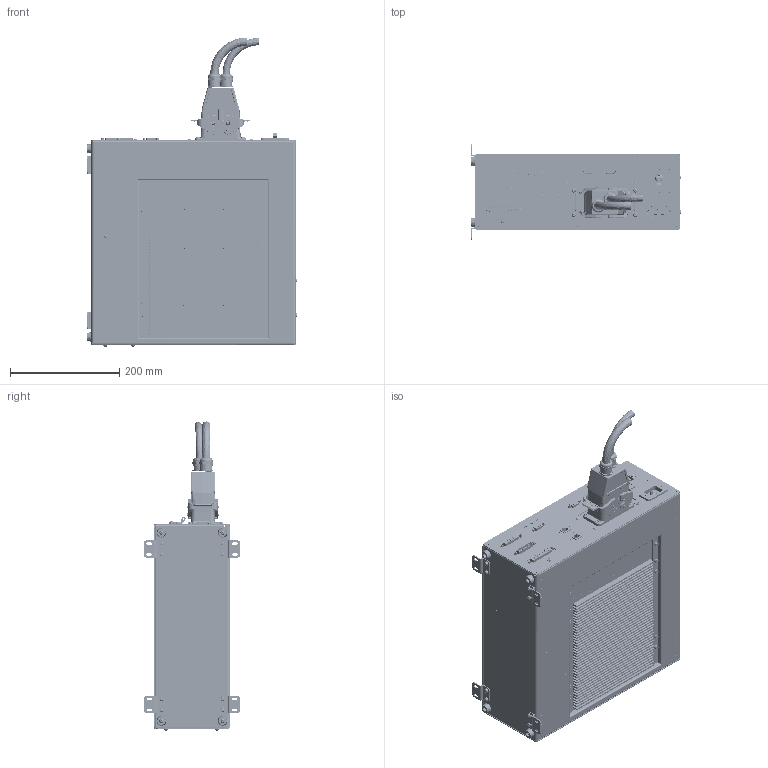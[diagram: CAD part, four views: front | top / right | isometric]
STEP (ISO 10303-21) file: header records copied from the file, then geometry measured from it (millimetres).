
FILE_DESCRIPTION (( 'STEP AP214' ), '1' );
FILE_NAME ('RC60B-DEX諷秶嶄旳唳.STEP', '2024-05-28T03:53:04', ( '' ), ( '' ), 'SwSTEP 2.0', 'SolidWorks 2021', '' );
FILE_SCHEMA (( 'AUTOMOTIVE_DESIGN' ));
Length unit declared in the file: millimetre
Products named in the file (39): CDRC6-V1-TD-SOA-01-M1_CDRC6.STEP; 圉埴芛粟すM4℅8; __________.STEP; RC40A-DEX-02-01__________A.STEP; RC60A-DAX ________.STEP; DM-9SS(MISUMI).STEP; RC60A-DAX-01-12 __________.STEP; RC60A-DAX-01-06 __________.STEP; CDRD-6A05-A01.STEP; ________-1.STEP; RC60B-DEX 諷秶嶄.STEP; ______________ M3__6.STEP; RC60A-DAX-01-05 IO________.STEP; ________________ M4__6.STEP; ____________________ M4__8.STEP; ____________ LH-JK.STEP; E7.820.003A.STEP; ______ BB2-B0-42-616-12B-E.STEP; 假蚾盓殤; ______________ M2.5__6.STEP; DS-UNC-2P-3.STEP; RC60-DFX-01-01 ______.STEP; E_0100.2026_03.STEP; ______________ M4__10.STEP; ________.STEP; 褐菜; RC60A-DAX-01-01 ____.STEP; 圉埴芛M4℅8; DS-UNC-2P.STEP; DS-UNC-2P-0.STEP; ________________ M4__8.STEP; RC60A-DEX-02-02________.STEP; GB__T6170-20001__________A____B__M4.STEP; RC60A-DAX-01-02 ______.STEP; RC60B-DEX諷秶嶄旳唳; ____________________ M4__12.STEP; RC60A-DAX-01-04 ______.STEP; 重载线束弯曲示意图; DS-UNC-2P-2.STEP
Assembly tree (143 placements, depth 5):
  RC60B-DEX諷秶嶄旳唳
    RC60B-DEX 諷秶嶄.STEP
      RC60A-DAX ________.STEP
        CDRC6-V1-TD-SOA-01-M1_CDRC6.STEP
          __________.STEP
        RC60-DFX-01-01 ______.STEP
        ____________ LH-JK.STEP
        ______ BB2-B0-42-616-12B-E.STEP
        E_0100.2026_03.STEP
        DM-9SS(MISUMI).STEP  x2
        DS-UNC-2P.STEP
        DS-UNC-2P-0.STEP
        E7.820.003A.STEP
        RC60A-DAX-01-05 IO________.STEP
        ________.STEP
        ________-1.STEP
        DS-UNC-2P-2.STEP
        DS-UNC-2P-3.STEP
      RC60A-DAX-01-01 ____.STEP
      RC60A-DAX-01-02 ______.STEP
      RC60A-DAX-01-06 __________.STEP
      RC60A-DAX-01-04 ______.STEP
      ____________________ M4__12.STEP  x4
      ____________________ M4__8.STEP  x26
      GB__T6170-20001__________A____B__M4.STEP  x2
      ______________ M4__10.STEP  x3
      ______________ M2.5__6.STEP  x6
      RC60A-DAX-01-12 __________.STEP
      ______________ M3__6.STEP  x39
      ________________ M4__8.STEP  x4
      ________________ M4__6.STEP  x12
      CDRD-6A05-A01.STEP
      RC60A-DEX-02-02________.STEP
      RC40A-DEX-02-01__________A.STEP
    重载线束弯曲示意图
    褐菜  x4
    圉埴芛M4℅8  x4
    假蚾盓殤  x4
    圉埴芛粟すM4℅8  x8
Bounding box: 385.2 x 176 x 566.55 mm (x, y, z)
Volume: 1319953.7 mm3; surface area: 1453464.8 mm2
Topology: 206 solids, 256 shells, 21161 faces, 56720 edges, 36664 vertices
Faces by surface type: plane 13381, cylinder 3949, bspline 1923, cone 1830, torus 70, sphere 8
Entity records: 626476 total; most frequent: CARTESIAN_POINT 175598, ORIENTED_EDGE 96068, DIRECTION 83772, EDGE_CURVE 48131, LINE 36906, VECTOR 36906, VERTEX_POINT 31455, AXIS2_PLACEMENT_3D 23433
